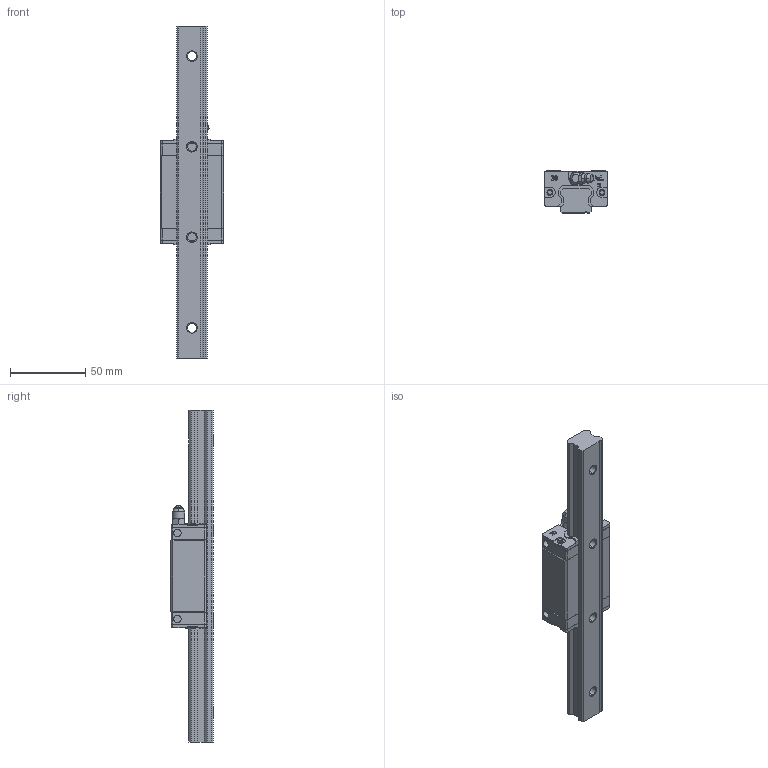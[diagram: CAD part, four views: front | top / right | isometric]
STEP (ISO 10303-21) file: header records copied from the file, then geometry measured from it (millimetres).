
FILE_DESCRIPTION (( 'STEP AP203' ), '1' );
FILE_NAME ('BGCS20BN.STEP', '2025-10-20T06:26:20', ( '' ), ( '' ), 'SwSTEP 2.0', 'SolidWorks 2020', '' );
FILE_SCHEMA (( 'CONFIG_CONTROL_DESIGN' ));
Length unit declared in the file: millimetre
Products named in the file (5): BGXS20BN; NGX02; BGCS20BN; BGR20-L220; BG20端防塵
Assembly tree (5 placements, depth 2):
  BGCS20BN
    BGR20-L220
    BGXS20BN
    BG20端防塵  x2
    NGX02
Bounding box: 41.95 x 28 x 220 mm (x, y, z)
Volume: 111407.1 mm3; surface area: 38322.5 mm2
Topology: 7 solids, 7 shells, 711 faces, 1903 edges, 1255 vertices
Faces by surface type: plane 483, cylinder 131, bspline 56, cone 37, torus 4
Entity records: 17471 total; most frequent: CARTESIAN_POINT 4647, ORIENTED_EDGE 2590, DIRECTION 2440, EDGE_CURVE 1295, VECTOR 916, LINE 916, VERTEX_POINT 851, AXIS2_PLACEMENT_3D 762
